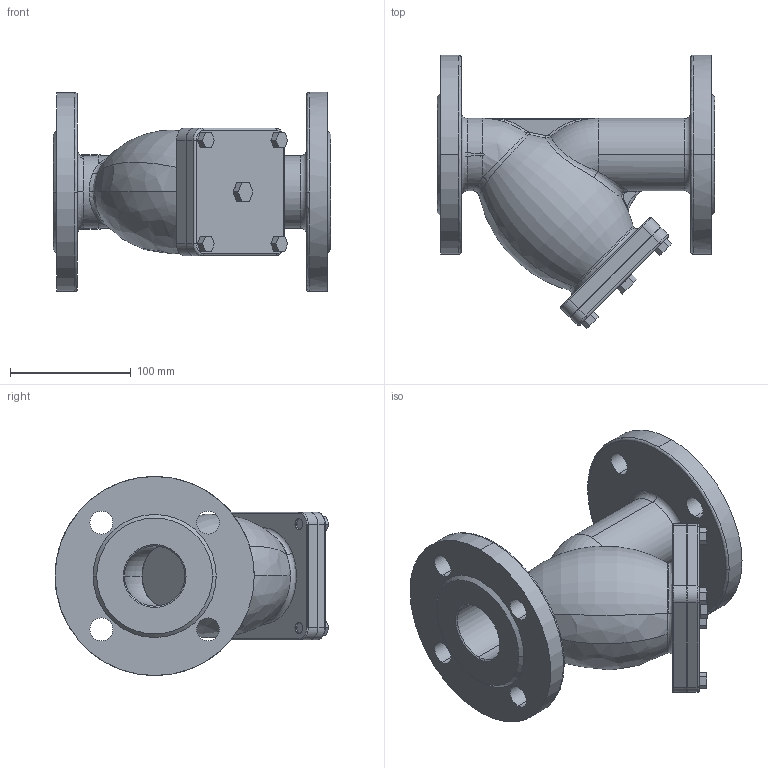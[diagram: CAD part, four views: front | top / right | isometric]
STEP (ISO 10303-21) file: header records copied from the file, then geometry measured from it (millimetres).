
FILE_DESCRIPTION (( 'STEP AP203' ), '1' );
FILE_NAME ('F3240-DN50.STEP', '2017-04-23T06:54:40', ( 'User' ), ( 'shendu' ), 'SwSTEP 2.0', 'SolidWorks 2015', '' );
FILE_SCHEMA (( 'CONFIG_CONTROL_DESIGN' ));
Length unit declared in the file: millimetre
Products named in the file (1): F3240-DN50
Bounding box: 230 x 226.85 x 165 mm (x, y, z)
Volume: 1424120.4 mm3; surface area: 297939.2 mm2
Topology: 10 solids, 10 shells, 346 faces, 863 edges, 541 vertices
Faces by surface type: plane 108, cylinder 106, bspline 99, torus 22, cone 11
Entity records: 24308 total; most frequent: CARTESIAN_POINT 16844, ORIENTED_EDGE 1700, DIRECTION 1232, EDGE_CURVE 850, VERTEX_POINT 541, AXIS2_PLACEMENT_3D 477, EDGE_LOOP 405, ADVANCED_FACE 346
